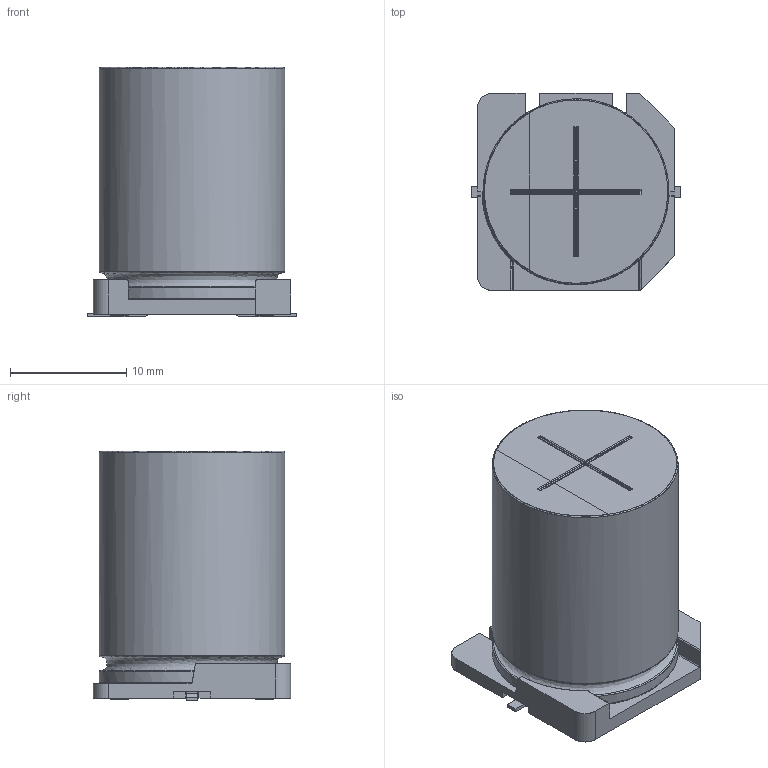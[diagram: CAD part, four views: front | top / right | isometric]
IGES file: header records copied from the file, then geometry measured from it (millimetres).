
Start section: JAMA-IS VERSION  1.0
Bounding box: 18 x 17 x 21.5 mm (x, y, z)
Surface area: 2269.9 mm2 (no closed solid volume)
Topology: 0 solids, 0 shells, 146 faces, 1363 edges, 1340 vertices
Faces by surface type: bspline 146
